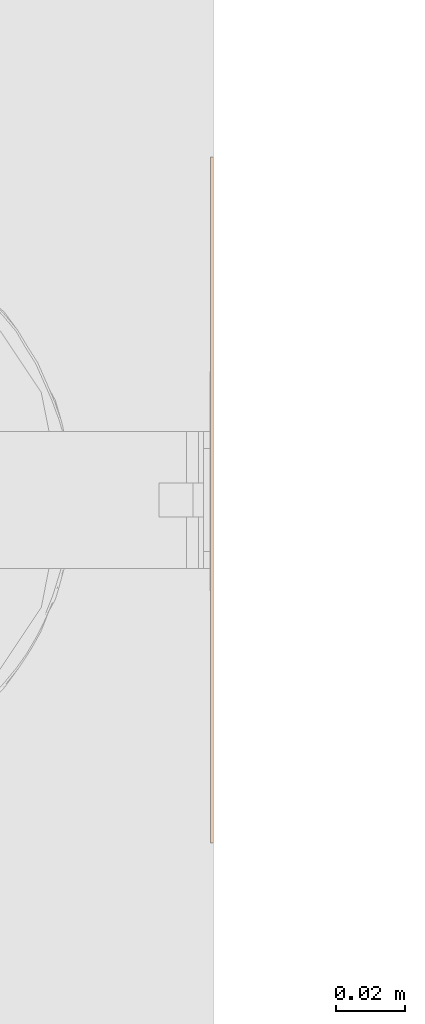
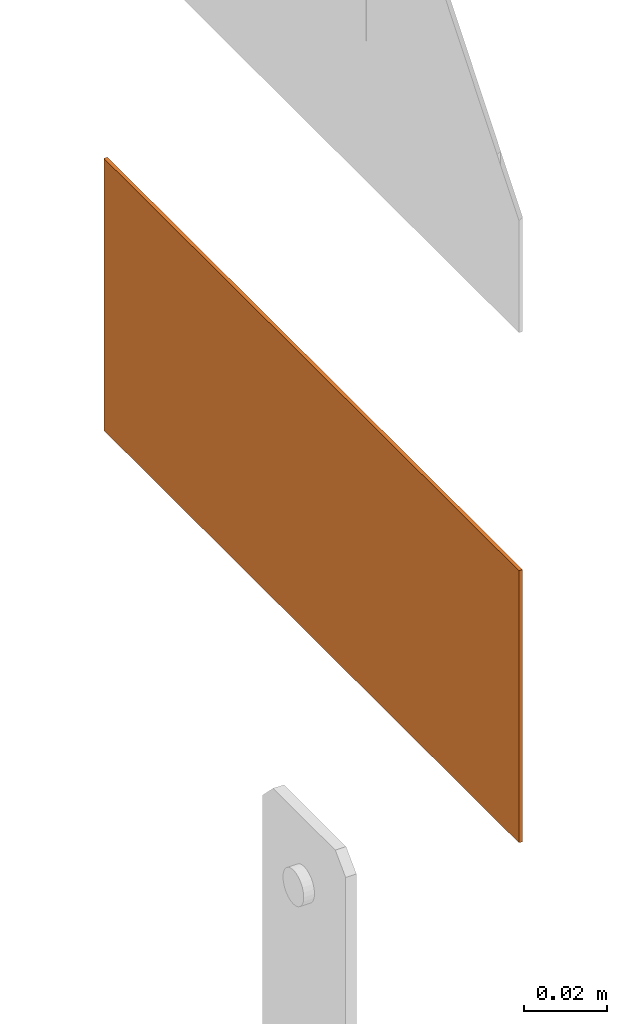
# One storey, part 64 of 119: 1 proxy.
"""IFC2X3 building model written with IfcOpenShell, lengths in metres."""

from ifc_helpers import new_model, entity, si_unit, converted_unit, derived_unit, direction, frame, frame_2d, origin, origin_2d_with_axis, place, context, subcontext, project, spatial, polyline, circle_curve, parameter, trimmed, segment, composite_curve, rectangle, outline, extrude, source, transform, mapped, material, material_list, type_object, type_shapes, element, save


model = new_model("IFC2X3")

# Units and contexts
model_context = context("Model", 3, precision=1e-05, world=origin(), true_north=direction((6.12303176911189e-17, 1.0)))
body_context = subcontext(model_context, "Body", "Model", "MODEL_VIEW")
ifc_project = project(units=[si_unit("LENGTHUNIT", "METRE"), si_unit("AREAUNIT", "SQUARE_METRE"), si_unit("VOLUMEUNIT", "CUBIC_METRE"), converted_unit("PLANEANGLEUNIT", "DEGREE", entity("IfcRatioMeasure", 0.0174532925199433), si_unit("PLANEANGLEUNIT", "RADIAN"), dimensions=[0, 0, 0, 0, 0, 0, 0]), si_unit("MASSUNIT", "GRAM", prefix="KILO"), derived_unit("MASSDENSITYUNIT", [(si_unit("MASSUNIT", "GRAM", prefix="KILO"), 1), (si_unit("LENGTHUNIT", "METRE"), -3)]), derived_unit("MOMENTOFINERTIAUNIT", [(si_unit("LENGTHUNIT", "METRE"), 4)]), si_unit("TIMEUNIT", "SECOND"), si_unit("FREQUENCYUNIT", "HERTZ"), si_unit("THERMODYNAMICTEMPERATUREUNIT", "DEGREE_CELSIUS"), derived_unit("THERMALTRANSMITTANCEUNIT", [(si_unit("MASSUNIT", "GRAM", prefix="KILO"), 1), (si_unit("THERMODYNAMICTEMPERATUREUNIT", "KELVIN"), -1), (si_unit("TIMEUNIT", "SECOND"), -3)]), derived_unit("VOLUMETRICFLOWRATEUNIT", [(si_unit("LENGTHUNIT", "METRE"), 3), (si_unit("TIMEUNIT", "SECOND"), -1)]), si_unit("ELECTRICCURRENTUNIT", "AMPERE"), si_unit("ELECTRICVOLTAGEUNIT", "VOLT"), si_unit("POWERUNIT", "WATT"), si_unit("FORCEUNIT", "NEWTON", prefix="KILO"), si_unit("ILLUMINANCEUNIT", "LUX"), si_unit("LUMINOUSFLUXUNIT", "LUMEN"), si_unit("LUMINOUSINTENSITYUNIT", "CANDELA"), derived_unit("USERDEFINED", [(si_unit("MASSUNIT", "GRAM", prefix="KILO"), -1), (si_unit("LENGTHUNIT", "METRE"), -2), (si_unit("TIMEUNIT", "SECOND"), 3), (si_unit("LUMINOUSFLUXUNIT", "LUMEN"), 1)]), derived_unit("LINEARVELOCITYUNIT", [(si_unit("LENGTHUNIT", "METRE"), 1), (si_unit("TIMEUNIT", "SECOND"), -1)]), si_unit("PRESSUREUNIT", "PASCAL"), derived_unit("USERDEFINED", [(si_unit("LENGTHUNIT", "METRE"), -2), (si_unit("MASSUNIT", "GRAM", prefix="KILO"), 1), (si_unit("TIMEUNIT", "SECOND"), -2)]), derived_unit("LINEARFORCEUNIT", [(si_unit("MASSUNIT", "GRAM", prefix="KILO"), 1), (si_unit("LENGTHUNIT", "METRE"), 1), (si_unit("TIMEUNIT", "SECOND"), -2), (si_unit("LENGTHUNIT", "METRE"), -1)]), derived_unit("PLANARFORCEUNIT", [(si_unit("MASSUNIT", "GRAM", prefix="KILO"), 1), (si_unit("LENGTHUNIT", "METRE"), 1), (si_unit("TIMEUNIT", "SECOND"), -2), (si_unit("LENGTHUNIT", "METRE"), -2)])], contexts=[model_context])

# Site, building, storey
site_placement = place(None, origin())
site = spatial("IfcSite", under=ifc_project, at=site_placement, Name="Default", CompositionType="ELEMENT")
building_placement = place(site_placement, origin())
building = spatial("IfcBuilding", under=site, at=building_placement, CompositionType="ELEMENT")
storey_placement = place(building_placement, origin())
storey = spatial("IfcBuildingStorey", under=building, at=storey_placement, Name="PAV. 01 - TÉRREO", CompositionType="ELEMENT", Elevation=0.0)

# Proxy
ifc_material_1 = material(Name="Plastico Preto")
ifc_material_2 = material(Name="Plastico azul claro")
ifc_material_3 = material(Name="Plastico vermelho")
ifc_material_4 = material(Name="Plastico branco")
ifc_material_5 = material(Name="Plastico Verde")
ifc_material_list = material_list([ifc_material_1, ifc_material_2, ifc_material_3, ifc_material_4, ifc_material_5])
building_element_proxy_type = type_object("IfcBuildingElementProxyType", Name="Sinalização de equipamentos - E05 - Extintor de incêndio - TIPO 2:Placa de extintor - E6-A", PredefinedType="NOTDEFINED", material=ifc_material_1)
shared_shape = source(origin(), body_context, "Body", "SweptSolid", [
    extrude(rectangle(XDim=0.001, YDim=0.0243464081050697, at=origin_2d_with_axis()), frame((0.0791678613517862, -0.0005, 0.0143679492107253), z_axis=(0.0, 0.0, 1.0), x_axis=(0.0, 1.0, 0.0)), (0.0, 0.0, 1.0), 0.0243153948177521),
    extrude(rectangle(XDim=0.001, YDim=0.0243464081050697, at=origin_2d_with_axis()), frame((0.0514092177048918, -0.0005, 0.0143679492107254), z_axis=(0.0, 0.0, 1.0), x_axis=(0.0, 1.0, 0.0)), (0.0, 0.0, 1.0), 0.0243153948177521),
    extrude(rectangle(XDim=0.001, YDim=0.0243464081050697, at=origin_2d_with_axis()), frame((0.023605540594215, -0.0005, 0.0143679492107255), z_axis=(0.0, 0.0, 1.0), x_axis=(0.0, 1.0, 0.0)), (0.0, 0.0, 1.0), 0.0243153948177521),
    extrude(rectangle(XDim=0.001, YDim=0.0243464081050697, at=origin_2d_with_axis()), frame((-0.00415310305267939, -0.0005, 0.0143679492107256), z_axis=(0.0, 0.0, 1.0), x_axis=(0.0, 1.0, 0.0)), (0.0, 0.0, 1.0), 0.0243153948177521),
    extrude(outline(polyline([(-0.0399999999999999, -0.1), (0.0399999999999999, -0.1), (0.0399999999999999, 0.1), (-0.0399999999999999, 0.1), (-0.0399999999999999, -0.1)]), holes=[polyline([(-0.0319999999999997, 0.091), (-0.0150022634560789, 0.091), (-0.0150022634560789, -0.091), (-0.0319999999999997, -0.091), (-0.0319999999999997, 0.091)]), polyline([(-0.010791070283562, 0.091), (0.0319999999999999, 0.091), (0.0319999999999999, 0.0473282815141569), (-0.010791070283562, 0.0473282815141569), (-0.010791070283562, 0.091)]), polyline([(0.00131665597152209, 0.0441091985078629), (0.0256320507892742, 0.0441091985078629), (0.0256320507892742, 0.0197627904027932), (0.00131665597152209, 0.0197627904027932), (0.00131665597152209, 0.0441091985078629)]), polyline([(0.00131665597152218, 0.0163263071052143), (0.0256320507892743, 0.0163263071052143), (0.0256320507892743, -0.00802010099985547), (0.00131665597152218, -0.00802010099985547), (0.00131665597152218, 0.0163263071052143)]), polyline([(0.00131665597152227, -0.0114323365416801), (0.0256320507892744, -0.0114323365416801), (0.0256320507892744, -0.0357787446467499), (0.00131665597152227, -0.0357787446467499), (0.00131665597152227, -0.0114323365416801)]), polyline([(0.00131665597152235, -0.0635824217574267), (0.00131665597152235, -0.039236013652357), (0.0256320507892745, -0.039236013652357), (0.0256320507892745, -0.0635824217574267), (0.00131665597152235, -0.0635824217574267)]), polyline([(0.00131665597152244, -0.0669946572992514), (0.0256320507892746, -0.0669946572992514), (0.0256320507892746, -0.091), (0.00131665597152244, -0.091), (0.00131665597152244, -0.0669946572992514)])]), frame((0.0, -0.001, 0.0399999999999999), z_axis=(0.0, 1.0, 0.0), x_axis=(0.0, 0.0, -1.0)), (0.0, 0.0, 1.0), 0.001),
    extrude(outline(composite_curve([segment(trimmed(circle_curve(frame_2d((-0.00182713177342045, 0.0030692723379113), x_axis=(1.0, 0.0)), 0.00333179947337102), [parameter(180.0)], [parameter(270.0)], True, "PARAMETER"), True, "CONTINUOUS"), segment(polyline([(-0.00182713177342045, -0.000262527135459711), (-0.000430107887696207, -0.000262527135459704)]), True, "CONTINUOUS"), segment(polyline([(-0.000430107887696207, -0.000262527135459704), (-0.000430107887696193, -0.00350797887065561)]), True, "CONTINUOUS"), segment(polyline([(-0.000430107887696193, -0.00350797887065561), (-0.00249820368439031, -0.00350797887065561)]), True, "CONTINUOUS"), segment(polyline([(-0.00249820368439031, -0.00350797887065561), (-0.00742535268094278, 7.18044171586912e-05)]), True, "CONTINUOUS"), segment(polyline([(-0.00742535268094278, 7.18044171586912e-05), (-0.00742535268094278, 0.00166630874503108)]), True, "CONTINUOUS"), segment(polyline([(-0.00742535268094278, 0.00166630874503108), (-0.00871124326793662, 0.00166630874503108)]), True, "CONTINUOUS"), segment(polyline([(-0.00871124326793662, 0.00166630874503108), (-0.00846384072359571, -0.00134355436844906)]), True, "CONTINUOUS"), segment(trimmed(circle_curve(frame_2d((-0.00608099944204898, -0.00114769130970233), x_axis=(1.0, 0.0)), 0.00239087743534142), [parameter(184.698993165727)], [parameter(232.0)], True, "PARAMETER"), True, "CONTINUOUS"), segment(polyline([(-0.00755297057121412, -0.00303172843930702), (-0.0030496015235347, -0.00655014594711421)]), True, "CONTINUOUS"), segment(polyline([(-0.0030496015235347, -0.00655014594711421), (-0.000124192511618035, -0.00655014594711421)]), True, "CONTINUOUS"), segment(polyline([(-0.000124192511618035, -0.00655014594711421), (-0.000124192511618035, -0.00788602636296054)]), True, "CONTINUOUS"), segment(polyline([(-0.000124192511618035, -0.00788602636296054), (0.003207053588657, -0.00788602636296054)]), True, "CONTINUOUS"), segment(polyline([(0.003207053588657, -0.00788602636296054), (0.003207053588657, -0.00698801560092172)]), True, "CONTINUOUS"), segment(polyline([(0.003207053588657, -0.00698801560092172), (0.00540783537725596, -0.00698801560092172)]), True, "CONTINUOUS"), segment(polyline([(0.00540783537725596, -0.00698801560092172), (0.00665542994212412, -0.00574042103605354)]), True, "CONTINUOUS"), segment(polyline([(0.00665542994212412, -0.00574042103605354), (0.00665542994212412, -0.00450724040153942)]), True, "CONTINUOUS"), segment(polyline([(0.00665542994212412, -0.00450724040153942), (0.00491919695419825, -0.00324579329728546)]), True, "CONTINUOUS"), segment(polyline([(0.00491919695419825, -0.00324579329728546), (0.00355615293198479, -0.00324579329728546)]), True, "CONTINUOUS"), segment(polyline([(0.00355615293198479, -0.00324579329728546), (0.00355615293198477, -0.000262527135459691)]), True, "CONTINUOUS"), segment(polyline([(0.00355615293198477, -0.000262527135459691), (0.00500257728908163, -0.000262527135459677)]), True, "CONTINUOUS"), segment(trimmed(circle_curve(frame_2d((0.00500257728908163, 0.00284153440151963), x_axis=(1.0, 0.0)), 0.00310406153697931), [parameter(270.0)], [parameter(1.52666624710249e-13)], True, "PARAMETER"), True, "CONTINUOUS"), segment(polyline([(0.00810663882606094, 0.00284153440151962), (0.0081066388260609, 0.0313568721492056)]), True, "CONTINUOUS"), segment(polyline([(0.0081066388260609, 0.0313568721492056), (-0.00515893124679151, 0.0313568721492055)]), True, "CONTINUOUS"), segment(polyline([(-0.00515893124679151, 0.0313568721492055), (-0.00515893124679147, 0.00306927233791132)]), True, "CONTINUOUS")], self_intersect=False)), frame((-0.0705753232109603, -0.001, 0.0413479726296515), z_axis=(0.0, 1.0, 0.0), x_axis=(1.0, 0.0, 0.0)), (0.0, 0.0, 1.0), 0.001),
    extrude(rectangle(XDim=0.001, YDim=0.0243464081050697, at=origin_2d_with_axis()), frame((-0.0319359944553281, -0.0005, 0.0143679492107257), z_axis=(0.0, 0.0, 1.0), x_axis=(0.0, 1.0, 0.0)), (0.0, 0.0, 1.0), 0.0243153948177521),
    extrude(outline(polyline([(-0.0218358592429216, -0.021395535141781), (0.0218358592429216, -0.021395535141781), (0.0218358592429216, 0.021395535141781), (-0.0218358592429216, 0.021395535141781), (-0.0218358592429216, -0.021395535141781)]), holes=[composite_curve([segment(polyline([(-0.00669545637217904, -0.0194044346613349), (-0.00669545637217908, 0.00911090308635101)]), True, "CONTINUOUS"), segment(trimmed(circle_curve(frame_2d((-0.00359139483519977, 0.00911090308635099), x_axis=(-1.0, 0.0)), 0.00310406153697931), [parameter(270.0)], [parameter(360.0)], True, "PARAMETER"), False, "CONTINUOUS"), segment(polyline([(-0.0035913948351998, 0.0122149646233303), (-0.00214497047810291, 0.0122149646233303)]), True, "CONTINUOUS"), segment(polyline([(-0.00214497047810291, 0.0122149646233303), (-0.00214497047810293, 0.0151982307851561)]), True, "CONTINUOUS"), segment(polyline([(-0.00214497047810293, 0.0151982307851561), (-0.0035080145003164, 0.0151982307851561)]), True, "CONTINUOUS"), segment(polyline([(-0.0035080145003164, 0.0151982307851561), (-0.00524424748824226, 0.01645967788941)]), True, "CONTINUOUS"), segment(polyline([(-0.00524424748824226, 0.01645967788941), (-0.00524424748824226, 0.0176928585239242)]), True, "CONTINUOUS"), segment(polyline([(-0.00524424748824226, 0.0176928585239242), (-0.0039966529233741, 0.0189404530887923)]), True, "CONTINUOUS"), segment(polyline([(-0.0039966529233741, 0.0189404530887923), (-0.00179587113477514, 0.0189404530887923)]), True, "CONTINUOUS"), segment(polyline([(-0.00179587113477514, 0.0189404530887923), (-0.00179587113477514, 0.0198384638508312)]), True, "CONTINUOUS"), segment(polyline([(-0.00179587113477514, 0.0198384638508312), (0.00153537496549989, 0.0198384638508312)]), True, "CONTINUOUS"), segment(polyline([(0.00153537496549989, 0.0198384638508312), (0.00153537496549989, 0.0185025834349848)]), True, "CONTINUOUS"), segment(polyline([(0.00153537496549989, 0.0185025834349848), (0.00446078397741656, 0.0185025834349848)]), True, "CONTINUOUS"), segment(polyline([(0.00446078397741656, 0.0185025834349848), (0.00896415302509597, 0.0149841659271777)]), True, "CONTINUOUS"), segment(trimmed(circle_curve(frame_2d((0.00749218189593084, 0.0131001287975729), x_axis=(-1.0, 0.0)), 0.00239087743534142), [parameter(184.698993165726)], [parameter(231.999999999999)], True, "PARAMETER"), False, "CONTINUOUS"), segment(polyline([(0.00987502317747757, 0.0132959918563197), (0.0101224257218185, 0.0102861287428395)]), True, "CONTINUOUS"), segment(polyline([(0.0101224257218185, 0.0102861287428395), (0.00883653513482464, 0.0102861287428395)]), True, "CONTINUOUS"), segment(polyline([(0.00883653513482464, 0.0102861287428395), (0.00883653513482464, 0.0118806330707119)]), True, "CONTINUOUS"), segment(polyline([(0.00883653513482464, 0.0118806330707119), (0.00390938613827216, 0.0154604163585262)]), True, "CONTINUOUS"), segment(polyline([(0.00390938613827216, 0.0154604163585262), (0.00184129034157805, 0.0154604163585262)]), True, "CONTINUOUS"), segment(polyline([(0.00184129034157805, 0.0154604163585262), (0.00184129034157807, 0.0122149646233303)]), True, "CONTINUOUS"), segment(polyline([(0.00184129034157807, 0.0122149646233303), (0.00323831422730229, 0.0122149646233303)]), True, "CONTINUOUS"), segment(trimmed(circle_curve(frame_2d((0.00323831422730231, 0.00888316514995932), x_axis=(-1.0, 0.0)), 0.00333179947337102), [parameter(180.0)], [parameter(270.0)], True, "PARAMETER"), False, "CONTINUOUS"), segment(polyline([(0.00657011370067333, 0.00888316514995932), (0.00657011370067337, -0.0194044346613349)]), True, "CONTINUOUS"), segment(polyline([(0.00657011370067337, -0.0194044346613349), (-0.00669545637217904, -0.0194044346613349)]), True, "CONTINUOUS")], self_intersect=False)]), frame((-0.0691641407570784, -0.001, 0.0293955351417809), z_axis=(0.0, 1.0, 0.0), x_axis=(-1.0, 0.0, 0.0)), (0.0, 0.0, 1.0), 0.001),
    extrude(rectangle(XDim=0.001, YDim=0.182, at=origin_2d_with_axis()), frame((0.0, -0.0005, 0.0550022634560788), z_axis=(0.0, 0.0, 1.0), x_axis=(0.0, 1.0, 0.0)), (0.0, 0.0, 1.0), 0.0169977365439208),
])
type_shapes(building_element_proxy_type, [shared_shape])
proxy_placement = place(storey_placement, frame((48.3240605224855, 12.4374199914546, 1.65), z_axis=(0.0, 0.0, 1.0), x_axis=(0.0, -1.0, 0.0)))
element("IfcBuildingElementProxy", 1, at=proxy_placement, inside=storey, type_object=building_element_proxy_type, material=ifc_material_list, Name="Sinalização de equipamentos - E05 - Extintor de incêndio - TIPO 2:Placa de extintor - E6-A", ObjectType="Sinalização de equipamentos - E05 - Extintor de incêndio - TIPO 2:Placa de extintor - E6-A", context=body_context, shape_type="MappedRepresentation", body=[
    mapped(shared_shape, transform((0.0, 0.0, 0.0), scale=1.0)),
])

save(model, "model.ifc")
